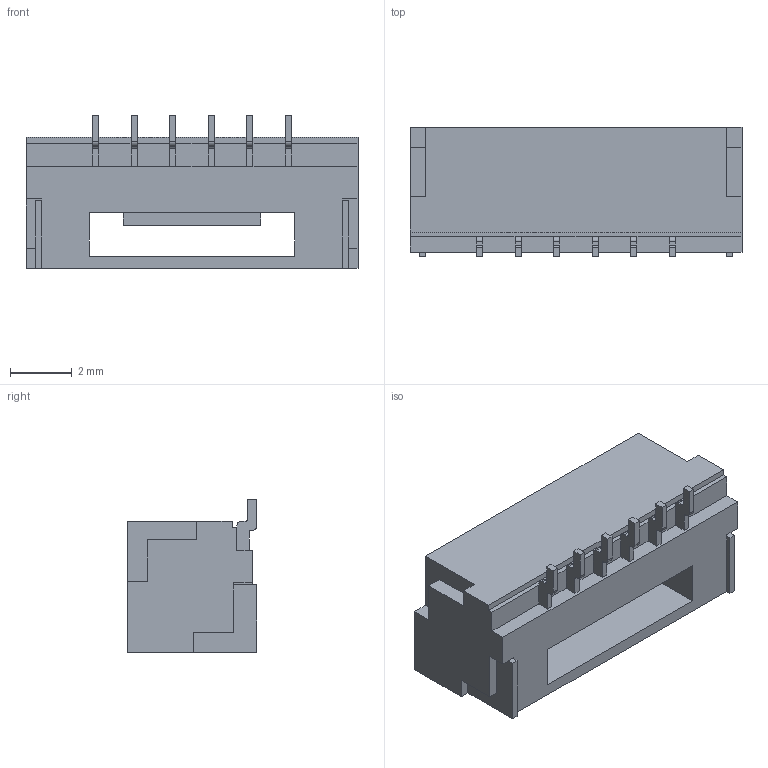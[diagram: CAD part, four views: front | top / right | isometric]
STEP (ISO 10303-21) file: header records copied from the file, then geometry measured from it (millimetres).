
FILE_DESCRIPTION (( 'STEP AP214' ), '1' );
FILE_NAME ('BM06B-GHS-TBT(LF)(SN).STEP', '2023-10-05T14:55:06', ( '' ), ( '' ), 'SwSTEP 2.0', 'SolidWorks 2022', '' );
FILE_SCHEMA (( 'AUTOMOTIVE_DESIGN' ));
Length unit declared in the file: millimetre
Products named in the file (1): BM06B-GHS-TBT(LF)(SN)
Bounding box: 10.75 x 4.2 x 4.95 mm (x, y, z)
Volume: 104.5 mm3; surface area: 333.9 mm2
Topology: 1 solids, 1 shells, 140 faces, 394 edges, 258 vertices
Faces by surface type: plane 116, cylinder 24
Entity records: 5086 total; most frequent: CARTESIAN_POINT 793, ORIENTED_EDGE 788, DIRECTION 724, EDGE_CURVE 394, VECTOR 346, LINE 346, VERTEX_POINT 258, AXIS2_PLACEMENT_3D 189
